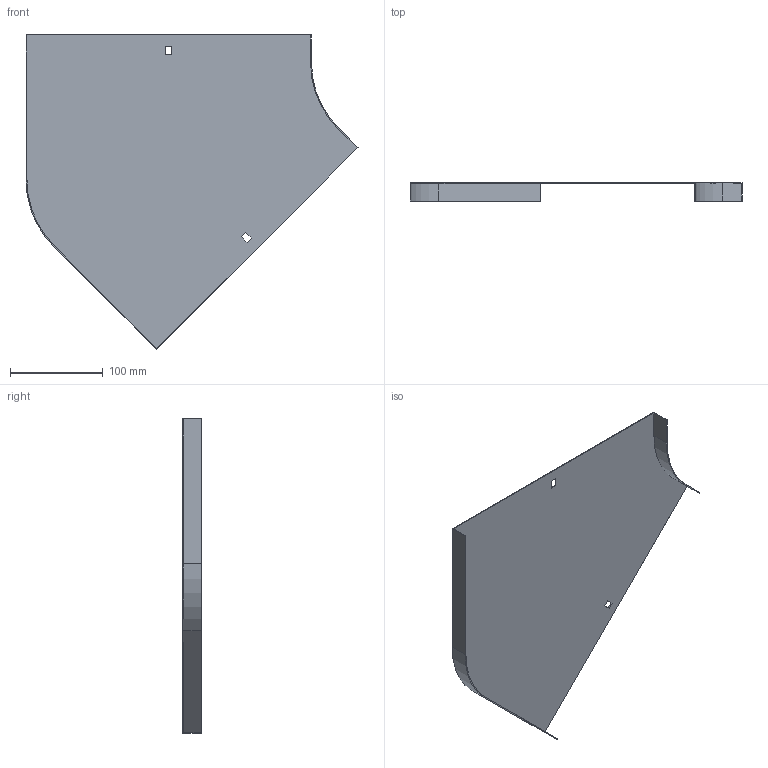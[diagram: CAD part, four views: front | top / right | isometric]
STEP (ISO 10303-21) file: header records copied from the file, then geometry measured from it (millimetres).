
FILE_DESCRIPTION (( 'STEP AP214' ), '1' );
FILE_NAME ('11G1P300.step', '2025-02-21T12:46:00', ( '' ), ( '' ), 'SwSTEP 2.0', 'SolidWorks 2023', '' );
FILE_SCHEMA (( 'AUTOMOTIVE_DESIGN' ));
Length unit declared in the file: millimetre
Products named in the file (1): 11G1P300
Bounding box: 357.06 x 20 x 337.94 mm (x, y, z)
Volume: 92430 mm3; surface area: 186141 mm2
Topology: 1 solids, 1 shells, 26 faces, 72 edges, 48 vertices
Faces by surface type: plane 22, cylinder 4
Entity records: 855 total; most frequent: CARTESIAN_POINT 147, ORIENTED_EDGE 144, DIRECTION 134, EDGE_CURVE 72, LINE 64, VECTOR 64, VERTEX_POINT 48, AXIS2_PLACEMENT_3D 35
